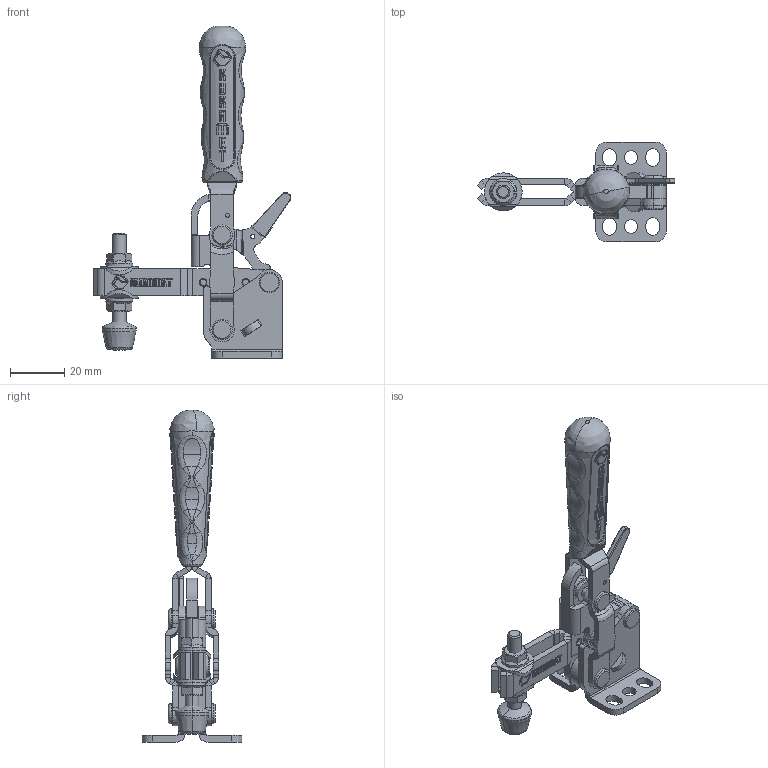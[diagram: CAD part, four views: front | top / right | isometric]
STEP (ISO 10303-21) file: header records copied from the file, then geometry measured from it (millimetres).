
FILE_DESCRIPTION(('STEP AP242'),'1');
FILE_NAME('211-1-l.stp','2024-02-28T14:46:02',('TraceParts'),('TraceParts S.A.'),'Spatial InterOp 3D',' ',' ');
FILE_SCHEMA(('AP242_MANAGED_MODEL_BASED_3D_ENGINEERING_MIM_LF {1 0 10303 442 1 1 4}'));
Length unit declared in the file: millimetre
Products named in the file (1): 211-1-l_1
Bounding box: 73.2 x 37 x 122.87 mm (x, y, z)
Volume: 27582.8 mm3; surface area: 21128 mm2
Topology: 9 solids, 14 shells, 2075 faces, 5110 edges, 3015 vertices
Faces by surface type: cylinder 773, plane 586, bspline 392, torus 165, sphere 97, cone 56, extrusion 6
Entity records: 82402 total; most frequent: CARTESIAN_POINT 28032, ORIENTED_EDGE 10048, DIRECTION 8942, EDGE_CURVE 5024, AXIS2_PLACEMENT_3D 3548, VERTEX_POINT 3015, EDGE_LOOP 2177, ADVANCED_FACE 2075
